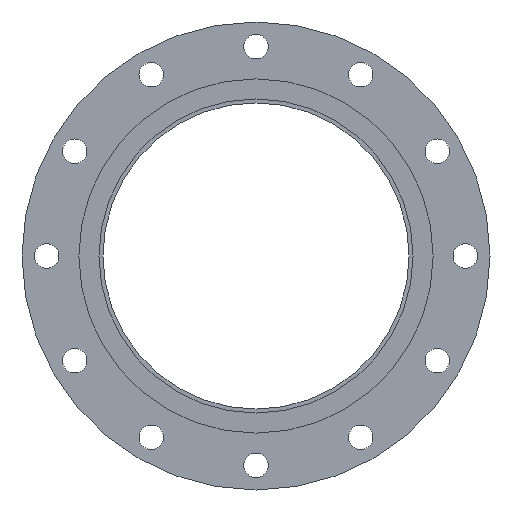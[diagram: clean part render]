
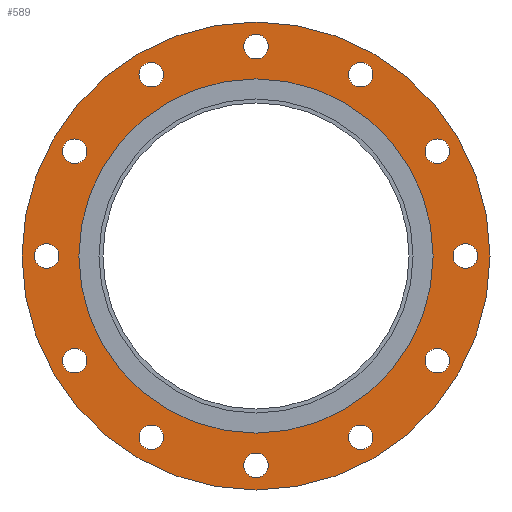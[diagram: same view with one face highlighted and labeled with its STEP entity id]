
A CAD part, left-side view. The second image highlights one B-rep face of the part: STEP entity #589.
In plain terms, the highlighted planar face has unit normal (-1, 0, 0).
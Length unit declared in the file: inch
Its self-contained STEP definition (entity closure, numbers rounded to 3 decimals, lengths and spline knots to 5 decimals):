
#49=FACE_BOUND('',#135,.T.);
#50=FACE_BOUND('',#136,.T.);
#51=FACE_BOUND('',#137,.T.);
#52=FACE_BOUND('',#138,.T.);
#53=FACE_BOUND('',#139,.T.);
#54=FACE_BOUND('',#140,.T.);
#55=FACE_BOUND('',#141,.T.);
#56=FACE_BOUND('',#142,.T.);
#57=FACE_BOUND('',#143,.T.);
#58=FACE_BOUND('',#144,.T.);
#59=FACE_BOUND('',#145,.T.);
#60=FACE_BOUND('',#146,.T.);
#61=FACE_BOUND('',#147,.T.);
#80=PLANE('',#679);
#104=FACE_OUTER_BOUND('',#134,.T.);
#134=EDGE_LOOP('',(#473,#474));
#135=EDGE_LOOP('',(#475));
#136=EDGE_LOOP('',(#476));
#137=EDGE_LOOP('',(#477));
#138=EDGE_LOOP('',(#478));
#139=EDGE_LOOP('',(#479));
#140=EDGE_LOOP('',(#480));
#141=EDGE_LOOP('',(#481));
#142=EDGE_LOOP('',(#482));
#143=EDGE_LOOP('',(#483));
#144=EDGE_LOOP('',(#484));
#145=EDGE_LOOP('',(#485));
#146=EDGE_LOOP('',(#486));
#147=EDGE_LOOP('',(#487,#488));
#205=CIRCLE('',#616,0.5);
#207=CIRCLE('',#619,0.5);
#209=CIRCLE('',#622,0.5);
#211=CIRCLE('',#625,0.5);
#213=CIRCLE('',#628,0.5);
#215=CIRCLE('',#631,0.5);
#217=CIRCLE('',#634,0.5);
#219=CIRCLE('',#637,0.5);
#221=CIRCLE('',#640,0.5);
#223=CIRCLE('',#643,0.5);
#225=CIRCLE('',#646,0.5);
#227=CIRCLE('',#649,0.5);
#246=CIRCLE('',#677,7.19);
#247=CIRCLE('',#678,7.19);
#248=CIRCLE('',#680,9.5);
#249=CIRCLE('',#681,9.5);
#257=VERTEX_POINT('',#912);
#259=VERTEX_POINT('',#918);
#261=VERTEX_POINT('',#924);
#263=VERTEX_POINT('',#930);
#265=VERTEX_POINT('',#936);
#267=VERTEX_POINT('',#942);
#269=VERTEX_POINT('',#948);
#271=VERTEX_POINT('',#954);
#273=VERTEX_POINT('',#960);
#275=VERTEX_POINT('',#966);
#277=VERTEX_POINT('',#972);
#279=VERTEX_POINT('',#978);
#298=VERTEX_POINT('',#1030);
#299=VERTEX_POINT('',#1031);
#300=VERTEX_POINT('',#1036);
#301=VERTEX_POINT('',#1037);
#310=EDGE_CURVE('',#257,#257,#205,.T.);
#313=EDGE_CURVE('',#259,#259,#207,.T.);
#316=EDGE_CURVE('',#261,#261,#209,.T.);
#319=EDGE_CURVE('',#263,#263,#211,.T.);
#322=EDGE_CURVE('',#265,#265,#213,.T.);
#325=EDGE_CURVE('',#267,#267,#215,.T.);
#328=EDGE_CURVE('',#269,#269,#217,.T.);
#331=EDGE_CURVE('',#271,#271,#219,.T.);
#334=EDGE_CURVE('',#273,#273,#221,.T.);
#337=EDGE_CURVE('',#275,#275,#223,.T.);
#340=EDGE_CURVE('',#277,#277,#225,.T.);
#343=EDGE_CURVE('',#279,#279,#227,.T.);
#366=EDGE_CURVE('',#298,#299,#246,.T.);
#367=EDGE_CURVE('',#299,#298,#247,.T.);
#369=EDGE_CURVE('',#300,#301,#248,.T.);
#370=EDGE_CURVE('',#301,#300,#249,.T.);
#473=ORIENTED_EDGE('',*,*,#369,.F.);
#474=ORIENTED_EDGE('',*,*,#370,.F.);
#475=ORIENTED_EDGE('',*,*,#310,.T.);
#476=ORIENTED_EDGE('',*,*,#313,.T.);
#477=ORIENTED_EDGE('',*,*,#316,.T.);
#478=ORIENTED_EDGE('',*,*,#319,.T.);
#479=ORIENTED_EDGE('',*,*,#322,.T.);
#480=ORIENTED_EDGE('',*,*,#325,.T.);
#481=ORIENTED_EDGE('',*,*,#328,.T.);
#482=ORIENTED_EDGE('',*,*,#331,.T.);
#483=ORIENTED_EDGE('',*,*,#334,.T.);
#484=ORIENTED_EDGE('',*,*,#337,.T.);
#485=ORIENTED_EDGE('',*,*,#340,.T.);
#486=ORIENTED_EDGE('',*,*,#343,.T.);
#487=ORIENTED_EDGE('',*,*,#366,.T.);
#488=ORIENTED_EDGE('',*,*,#367,.T.);
#589=ADVANCED_FACE('',(#104,#49,#50,#51,#52,#53,#54,#55,#56,#57,#58,#59,
#60,#61),#80,.T.);
#616=AXIS2_PLACEMENT_3D('',#914,#712,#713);
#619=AXIS2_PLACEMENT_3D('',#920,#719,#720);
#622=AXIS2_PLACEMENT_3D('',#926,#726,#727);
#625=AXIS2_PLACEMENT_3D('',#932,#733,#734);
#628=AXIS2_PLACEMENT_3D('',#938,#740,#741);
#631=AXIS2_PLACEMENT_3D('',#944,#747,#748);
#634=AXIS2_PLACEMENT_3D('',#950,#754,#755);
#637=AXIS2_PLACEMENT_3D('',#956,#761,#762);
#640=AXIS2_PLACEMENT_3D('',#962,#768,#769);
#643=AXIS2_PLACEMENT_3D('',#968,#775,#776);
#646=AXIS2_PLACEMENT_3D('',#974,#782,#783);
#649=AXIS2_PLACEMENT_3D('',#980,#789,#790);
#677=AXIS2_PLACEMENT_3D('',#1032,#849,#850);
#678=AXIS2_PLACEMENT_3D('',#1033,#851,#852);
#679=AXIS2_PLACEMENT_3D('',#1035,#854,#855);
#680=AXIS2_PLACEMENT_3D('',#1038,#856,#857);
#681=AXIS2_PLACEMENT_3D('',#1039,#858,#859);
#712=DIRECTION('center_axis',(1.,0.,0.));
#713=DIRECTION('ref_axis',(0.,0.5,0.866));
#719=DIRECTION('center_axis',(1.,0.,0.));
#720=DIRECTION('ref_axis',(0.,0.866,0.5));
#726=DIRECTION('center_axis',(1.,0.,0.));
#727=DIRECTION('ref_axis',(0.,1.,0.));
#733=DIRECTION('center_axis',(1.,0.,0.));
#734=DIRECTION('ref_axis',(0.,0.866,-0.5));
#740=DIRECTION('center_axis',(1.,0.,0.));
#741=DIRECTION('ref_axis',(0.,0.5,-0.866));
#747=DIRECTION('center_axis',(1.,0.,0.));
#748=DIRECTION('ref_axis',(0.,0.,-1.));
#754=DIRECTION('center_axis',(1.,0.,0.));
#755=DIRECTION('ref_axis',(0.,-0.5,-0.866));
#761=DIRECTION('center_axis',(1.,0.,0.));
#762=DIRECTION('ref_axis',(0.,-0.866,-0.5));
#768=DIRECTION('center_axis',(1.,0.,0.));
#769=DIRECTION('ref_axis',(0.,-1.,0.));
#775=DIRECTION('center_axis',(1.,0.,0.));
#776=DIRECTION('ref_axis',(0.,-0.866,0.5));
#782=DIRECTION('center_axis',(1.,0.,0.));
#783=DIRECTION('ref_axis',(0.,-0.5,0.866));
#789=DIRECTION('center_axis',(1.,0.,0.));
#790=DIRECTION('ref_axis',(0.,0.,1.));
#849=DIRECTION('center_axis',(1.,0.,0.));
#850=DIRECTION('ref_axis',(0.,0.,-1.));
#851=DIRECTION('center_axis',(1.,0.,0.));
#852=DIRECTION('ref_axis',(0.,0.,-1.));
#854=DIRECTION('center_axis',(-1.,0.,0.));
#855=DIRECTION('ref_axis',(0.,0.,1.));
#856=DIRECTION('center_axis',(1.,0.,0.));
#857=DIRECTION('ref_axis',(0.,0.,-1.));
#858=DIRECTION('center_axis',(1.,0.,0.));
#859=DIRECTION('ref_axis',(0.,0.,-1.));
#912=CARTESIAN_POINT('',(-1.2525,7.11122,-4.68301));
#914=CARTESIAN_POINT('Origin',(-1.2525,7.36122,-4.25));
#918=CARTESIAN_POINT('',(-1.2525,3.81699,-7.61122));
#920=CARTESIAN_POINT('Origin',(-1.2525,4.25,-7.36122));
#924=CARTESIAN_POINT('',(-1.2525,-0.5,-8.5));
#926=CARTESIAN_POINT('Origin',(-1.2525,0.,-8.5));
#930=CARTESIAN_POINT('',(-1.2525,-4.68301,-7.11122));
#932=CARTESIAN_POINT('Origin',(-1.2525,-4.25,-7.36122));
#936=CARTESIAN_POINT('',(-1.2525,-7.61122,-3.81699));
#938=CARTESIAN_POINT('Origin',(-1.2525,-7.36122,-4.25));
#942=CARTESIAN_POINT('',(-1.2525,-8.5,0.5));
#944=CARTESIAN_POINT('Origin',(-1.2525,-8.5,0.));
#948=CARTESIAN_POINT('',(-1.2525,-7.11122,4.68301));
#950=CARTESIAN_POINT('Origin',(-1.2525,-7.36122,4.25));
#954=CARTESIAN_POINT('',(-1.2525,-3.81699,7.61122));
#956=CARTESIAN_POINT('Origin',(-1.2525,-4.25,7.36122));
#960=CARTESIAN_POINT('',(-1.2525,0.5,8.5));
#962=CARTESIAN_POINT('Origin',(-1.2525,0.,8.5));
#966=CARTESIAN_POINT('',(-1.2525,4.68301,7.11122));
#968=CARTESIAN_POINT('Origin',(-1.2525,4.25,7.36122));
#972=CARTESIAN_POINT('',(-1.2525,7.61122,3.81699));
#974=CARTESIAN_POINT('Origin',(-1.2525,7.36122,4.25));
#978=CARTESIAN_POINT('',(-1.2525,8.5,-0.5));
#980=CARTESIAN_POINT('Origin',(-1.2525,8.5,0.));
#1030=CARTESIAN_POINT('',(-1.2525,7.19,0.));
#1031=CARTESIAN_POINT('',(-1.2525,-7.19,0.));
#1032=CARTESIAN_POINT('Origin',(-1.2525,0.,0.));
#1033=CARTESIAN_POINT('Origin',(-1.2525,0.,0.));
#1035=CARTESIAN_POINT('Origin',(-1.2525,9.5,0.));
#1036=CARTESIAN_POINT('',(-1.2525,9.5,0.));
#1037=CARTESIAN_POINT('',(-1.2525,-9.5,0.));
#1038=CARTESIAN_POINT('Origin',(-1.2525,0.,0.));
#1039=CARTESIAN_POINT('Origin',(-1.2525,0.,0.));
